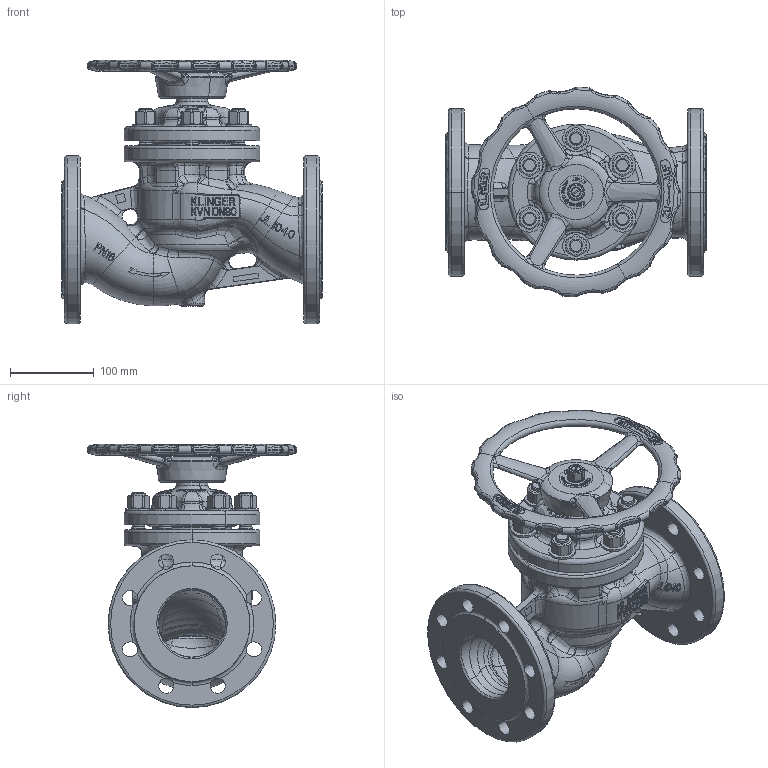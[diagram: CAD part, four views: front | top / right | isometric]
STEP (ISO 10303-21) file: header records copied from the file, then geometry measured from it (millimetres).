
FILE_DESCRIPTION((''),'2;1');
FILE_NAME('KVNFL080S-----P016DGG_SW0001','2015-07-08T',('jeitlers'),('RAND'),'PRO/ENGINEER BY PARAMETRIC TECHNOLOGY CORPORATION, 2013410','PRO/ENGINEER BY PARAMETRIC TECHNOLOGY CORPORATION, 2013410','');
FILE_SCHEMA(('CONFIG_CONTROL_DESIGN'));
Products named in the file (1): KVNFL080S-----P016DGG_SW0001
Bounding box: 310 x 250 x 313.8 mm (x, y, z)
Volume: 3738485.3 mm3; surface area: 627802.3 mm2
Topology: 2 solids, 2 shells, 3689 faces, 9488 edges, 5896 vertices
Faces by surface type: plane 1818, bspline 1002, cylinder 463, cone 188, torus 184, sphere 34
Entity records: 318246 total; most frequent: CARTESIAN_POINT 238697, ORIENTED_EDGE 18962, DIRECTION 12953, EDGE_CURVE 9481, VERTEX_POINT 5895, AXIS2_PLACEMENT_3D 4607, EDGE_LOOP 3858, B_SPLINE_CURVE_WITH_KNOTS 3822
